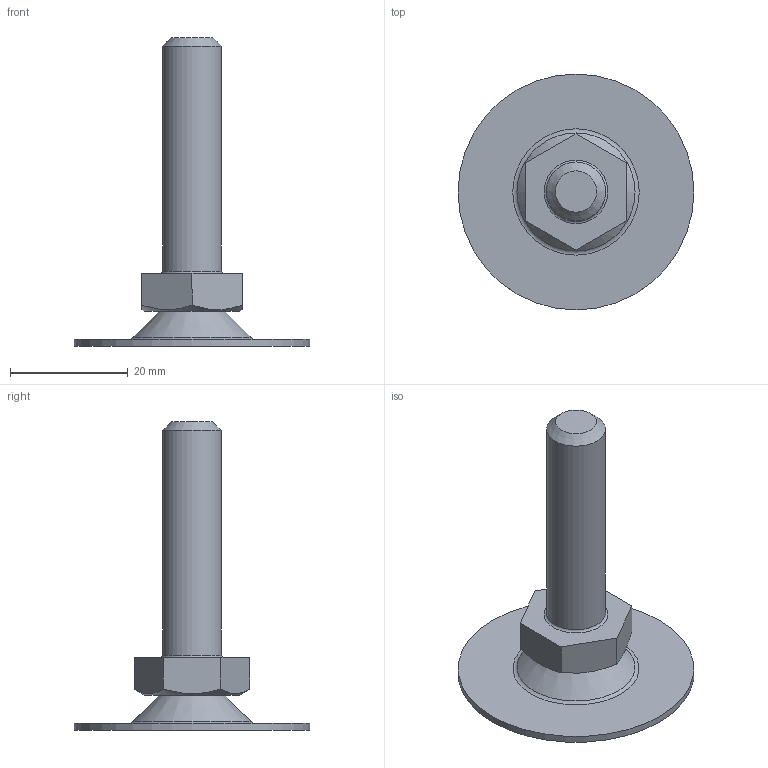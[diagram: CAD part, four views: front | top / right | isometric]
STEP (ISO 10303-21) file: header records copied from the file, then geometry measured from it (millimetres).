
FILE_DESCRIPTION(('STEP AP203'), '1');
FILE_NAME('A00050.1041016', '', ('UNSPECIFIED'), ('UNSPECIFIED'), 'C3D Converter', 'C3D Toolkit', '');
FILE_SCHEMA(('CONFIG_CONTROL_DESIGN'));
Length unit declared in the file: millimetre
Products named in the file (4): A00050.1041040; A00050.1040
Assembly tree (3 placements, depth 2):
  A00050.1041040
    A00050.1040
    (unnamed)
    (unnamed)
Bounding box: 40 x 40 x 52.38 mm (x, y, z)
Volume: 6313.1 mm3; surface area: 5356.6 mm2
Topology: 3 solids, 3 shells, 58 faces, 130 edges, 82 vertices
Faces by surface type: plane 28, torus 8, bspline 8, cone 7, cylinder 6, sphere 1
Full cylindrical faces by diameter (mm): 3.3 x1, 4 x1, 4.5 x1, 8 x1, 10 x1, 40 x1
Entity records: 2171 total; most frequent: CARTESIAN_POINT 784, DIRECTION 242, ORIENTED_EDGE 214, EDGE_CURVE 107, AXIS2_PLACEMENT_3D 95, EDGE_LOOP 86, VERTEX_POINT 81, ADVANCED_FACE 58
